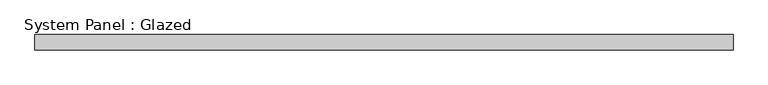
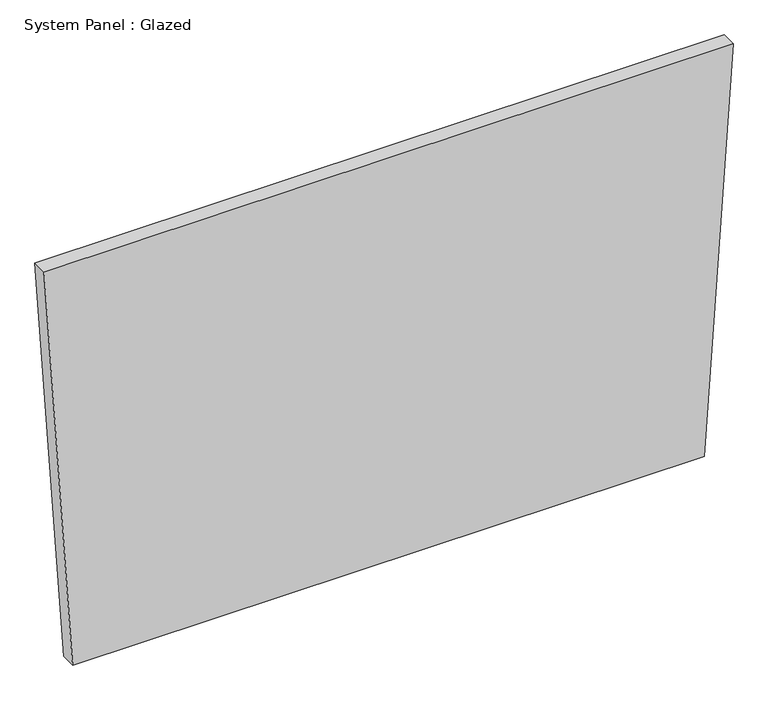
"""IFC4 building model written with IfcOpenShell, lengths in millimetres: plate geometry, System Panel : Glazed."""

from ifc_helpers import new_model, si_unit, frame, origin, place, context, project, spatial, polyline, outline, extrude, source, transform, mapped, element, save


def system_panel_glazed_feeb608c(model_context):
    return source(origin(), model_context, "Body", "SweptSolid", [
        extrude(outline(polyline([(0.0, -521.7736875), (0.0003664, 521.7736853), (704.2178858, 569.1795859), (704.2174861, -569.1795859), (0.0, -521.7736875)])), frame((0.0, 19.05, 0.0), z_axis=(0.0, 1.0, 0.0), x_axis=(0.0, 0.0, 1.0)), (0.0, 0.0, 1.0), 25.4),
    ])


if __name__ == "__main__":
    model = new_model("IFC4")
    model_context = context("Model", 3, world=origin())
    ifc_project = project(units=[si_unit("LENGTHUNIT", "METRE", prefix="MILLI")], contexts=[model_context])
    site = spatial("IfcSite", under=ifc_project)
    building = spatial("IfcBuilding", under=site)
    placement = place(None, origin())
    system_panel_glazed_shape = system_panel_glazed_feeb608c(model_context)
    element("IfcPlate", 1, ObjectType="System Panel : Glazed", at=placement, inside=building, context=model_context, shape_type="MappedRepresentation", body=[
        mapped(system_panel_glazed_shape, transform((0.0, 0.0, 0.0), x_axis=(1.0, 0.0, 0.0), y_axis=(0.0, 1.0, 0.0), z_axis=(0.0, 0.0, 1.0))),
    ])
    save(model, "model.ifc")
